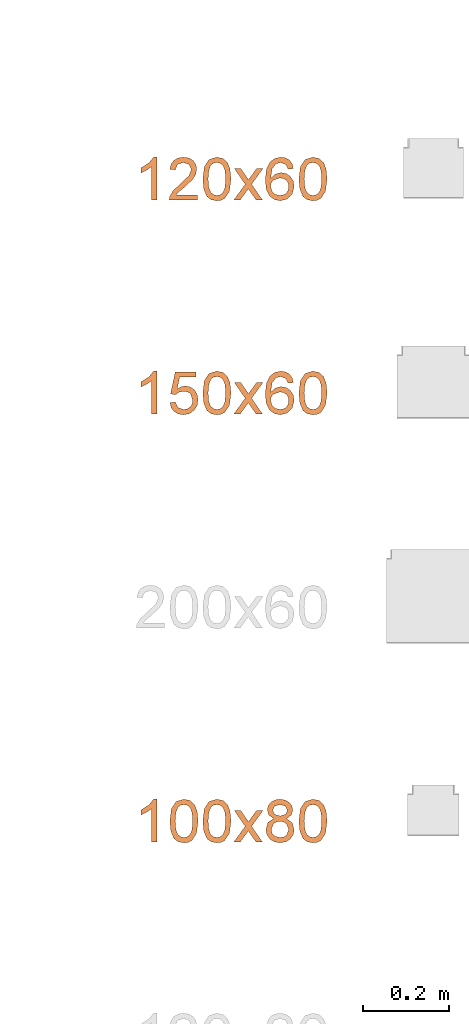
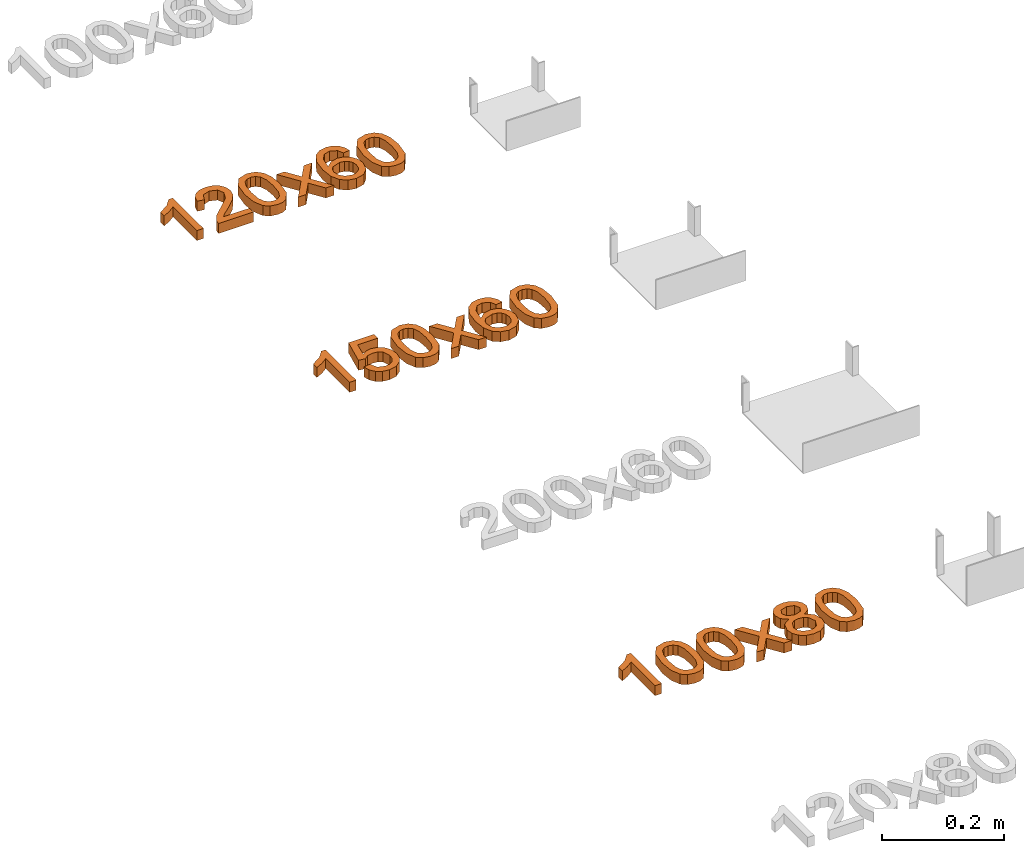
# One storey, part 55 of 71: 3 proxies.
"""IFC2X3 building model written with IfcOpenShell, lengths in millimetres."""

from ifc_helpers import new_model, entity, si_unit, converted_unit, derived_unit, direction, frame, origin, place, context, subcontext, project, spatial, polyline, outline, extrude, element, save


model = new_model("IFC2X3")

# Units and contexts
model_context = context("Model", 3, precision=0.01, world=origin(), true_north=direction((6.12303176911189e-17, 1.0)))
body_context = subcontext(model_context, "Body", "Model", "MODEL_VIEW")
ifc_project = project(units=[si_unit("LENGTHUNIT", "METRE", prefix="MILLI"), si_unit("AREAUNIT", "SQUARE_METRE"), si_unit("VOLUMEUNIT", "CUBIC_METRE"), converted_unit("PLANEANGLEUNIT", "DEGREE", entity("IfcRatioMeasure", 0.0174532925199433), si_unit("PLANEANGLEUNIT", "RADIAN"), dimensions=[0, 0, 0, 0, 0, 0, 0]), si_unit("MASSUNIT", "GRAM", prefix="KILO"), derived_unit("MASSDENSITYUNIT", [(si_unit("MASSUNIT", "GRAM", prefix="KILO"), 1), (si_unit("LENGTHUNIT", "METRE"), -3)]), si_unit("TIMEUNIT", "SECOND"), si_unit("FREQUENCYUNIT", "HERTZ"), si_unit("THERMODYNAMICTEMPERATUREUNIT", "DEGREE_CELSIUS"), derived_unit("THERMALTRANSMITTANCEUNIT", [(si_unit("MASSUNIT", "GRAM", prefix="KILO"), 1), (si_unit("THERMODYNAMICTEMPERATUREUNIT", "KELVIN"), -1), (si_unit("TIMEUNIT", "SECOND"), -3)]), derived_unit("VOLUMETRICFLOWRATEUNIT", [(si_unit("LENGTHUNIT", "METRE"), 3), (si_unit("TIMEUNIT", "SECOND"), -1)]), si_unit("ELECTRICCURRENTUNIT", "AMPERE"), si_unit("ELECTRICVOLTAGEUNIT", "VOLT"), si_unit("POWERUNIT", "WATT"), si_unit("FORCEUNIT", "NEWTON", prefix="KILO"), si_unit("ILLUMINANCEUNIT", "LUX"), si_unit("LUMINOUSFLUXUNIT", "LUMEN"), si_unit("LUMINOUSINTENSITYUNIT", "CANDELA"), derived_unit("USERDEFINED", [(si_unit("MASSUNIT", "GRAM", prefix="KILO"), -1), (si_unit("LENGTHUNIT", "METRE"), -2), (si_unit("TIMEUNIT", "SECOND"), 3), (si_unit("LUMINOUSFLUXUNIT", "LUMEN"), 1)]), derived_unit("LINEARVELOCITYUNIT", [(si_unit("LENGTHUNIT", "METRE"), 1), (si_unit("TIMEUNIT", "SECOND"), -1)]), si_unit("PRESSUREUNIT", "PASCAL"), derived_unit("USERDEFINED", [(si_unit("LENGTHUNIT", "METRE"), -2), (si_unit("MASSUNIT", "GRAM", prefix="KILO"), 1), (si_unit("TIMEUNIT", "SECOND"), -2)])], contexts=[model_context])

# Site, building, storey
site_placement = place(None, origin())
site = spatial("IfcSite", under=ifc_project, at=site_placement, Name="Default", CompositionType="ELEMENT")
building_placement = place(site_placement, origin())
building = spatial("IfcBuilding", under=site, at=building_placement, Name="Наименование здания", CompositionType="ELEMENT")
storey_placement = place(building_placement, origin())
storey = spatial("IfcBuildingStorey", under=building, at=storey_placement, Name="Этаж 01", CompositionType="ELEMENT", Elevation=0.0)

# Proxies
proxy_1_placement = place(storey_placement, origin())
element("IfcBuildingElementProxy", 1, at=proxy_1_placement, inside=storey, Name="Текст модели:100 мм Arial", ObjectType="Текст модели:100 мм Arial", context=body_context, shape_type="SweptSolid", body=[
    extrude(outline(polyline([(-63.8793021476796, -16.918484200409), (36.5770080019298, -16.918484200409), (36.5770080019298, -8.82508030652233), (23.2106288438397, 2.34626961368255), (11.4629304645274, 20.7526321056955), (-0.407395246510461, 20.7526321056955), (5.93243780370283, 7.53340574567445), (14.4059864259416, -4.36144543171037), (-63.8793021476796, -4.36144543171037), (-63.8793021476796, -16.918484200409)])), frame((21210.6140165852, -1399.45595365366, 0.0), z_axis=(0.0, 0.0, 1.0), x_axis=(0.0, 1.0, 0.0)), (0.0, 0.0, 1.0), 20.0),
    extrude(outline(polyline([(-32.3858783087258, -45.1669477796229), (-32.3858783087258, -57.7239865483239), (33.5385752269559, -57.7239865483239), (32.1896745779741, -49.0664969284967), (24.5622545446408, -35.7369059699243), (8.84143061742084, -21.1810416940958), (-12.8390816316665, -0.260818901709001), (-18.2592096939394, 13.9639515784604), (-13.1456499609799, 25.4786580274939), (0.208466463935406, 30.1752848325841), (14.1266686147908, 25.5890226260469), (19.4119066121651, 12.90935652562), (31.968945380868, 14.4789863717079), (28.9247218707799, 26.6252235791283), (22.3426998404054, 35.4973110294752), (12.5662358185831, 40.9235704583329), (-0.0613136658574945, 42.7323236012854), (-12.7808336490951, 40.7212353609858), (-22.5389035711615, 34.6879706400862), (-28.746912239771, 25.6748617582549), (-30.816248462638, 14.724241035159), (-28.584431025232, 2.81712712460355), (-21.1654774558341, -9.49465698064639), (-3.17604789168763, -26.6992716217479), (11.2694517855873, -38.7780637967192), (16.9348345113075, -45.1669477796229), (-32.3858783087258, -45.1669477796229)])), frame((21289.3244132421, -1405.61126925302, 0.0), z_axis=(0.0, 0.0, -1.0), x_axis=(-1.0, 0.0, 0.0)), (0.0, 0.0, -1.0), 20.0),
    extrude(outline(polyline([(-7.02884310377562, -33.3490673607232), (17.5323805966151, -33.3490673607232), (35.1984171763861, -27.6137612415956), (43.3439841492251, -18.4876517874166), (47.0516941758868, -5.75150665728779), (46.7162020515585, 4.48638208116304), (43.446577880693, 13.0955287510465), (27.9444305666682, 25.6659118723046), (-0.314338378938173, 32.2325535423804), (-24.0296505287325, 32.367828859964), (-39.4143020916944, 28.0260881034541), (-49.7293680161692, 18.9002174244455), (-54.4436715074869, 4.63998875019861), (-50.8676582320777, -14.130105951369), (-35.4058547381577, -26.7333390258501), (-7.02884310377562, -33.3490673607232)]), holes=[polyline([(-5.77428774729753, -20.8548320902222), (-25.015764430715, -17.3562860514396), (-36.7257089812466, -11.5717922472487), (-41.0962588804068, -4.77599682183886), (-41.9669219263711, 3.21464792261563), (-39.2244253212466, 11.279129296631), (-32.8654063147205, 17.2229259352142), (-20.9698370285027, 20.2947501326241), (-1.61768958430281, 19.7433141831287), (17.851414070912, 16.270770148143), (28.7803640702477, 10.7141596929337), (33.5546988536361, 3.61815959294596), (34.5599568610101, -4.4725533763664), (31.9421230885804, -12.1923199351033), (25.8471825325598, -18.1754808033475), (14.0250679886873, -21.4027476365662), (-5.77428774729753, -20.8548320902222)])]), frame((21368.158867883, -1417.51207886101, 0.0), z_axis=(0.0, 0.0, 1.0), x_axis=(0.101851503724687, -0.994799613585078, 0.0)), (0.0, 0.0, 1.0), 20.0),
    extrude(outline(polyline([(-34.5302215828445, -38.4265006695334), (-19.4225343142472, -38.4265006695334), (-0.341721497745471, -12.0616243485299), (2.47870713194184, -16.1328517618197), (17.8561745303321, -38.4265006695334), (32.9638617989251, -38.4265006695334), (7.40832586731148, -1.34399555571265), (33.9448804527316, 35.3461020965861), (18.8371931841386, 35.3461020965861), (4.95577923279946, 16.1671874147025), (0.0261604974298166, 9.34910777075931), (-5.66374769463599, 17.6877663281), (-17.8529044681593, 35.3461020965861), (-32.9605917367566, 35.3461020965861), (-7.69936140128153, -1.34399555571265), (-34.5302215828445, -38.4265006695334)])), frame((21441.0005248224, -1424.90875513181, 0.0)), (0.0, 0.0, 1.0), 20.0),
    extrude(outline(polyline([(6.79275401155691, -32.5027761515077), (18.3659045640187, -32.5027761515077), (28.1525204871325, -28.8011371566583), (35.6312934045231, -21.7178704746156), (40.280914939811, -11.5729874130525), (41.41307898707, 3.23667074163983), (36.1391243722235, 16.3729018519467), (21.8599739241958, 28.8803269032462), (-1.50836821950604, 38.2054593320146), (-23.6059131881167, 41.7609274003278), (-39.981422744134, 38.596528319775), (-51.1650797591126, 29.9216784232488), (-57.6870671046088, 16.9457940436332), (-57.9805556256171, -0.0494879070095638), (-49.2081886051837, -14.3141019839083), (-33.6167855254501, -22.9350568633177), (-20.6265742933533, -24.2502330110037), (-8.97800352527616, -20.6254922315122), (0.0919027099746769, -13.035096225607), (5.34612034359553, -2.45330669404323), (5.85483161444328, 11.6447254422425), (-0.843339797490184, 24.991063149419), (19.7707676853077, 15.5765036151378), (28.4840991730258, 4.26766164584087), (28.3893512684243, -7.4637453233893), (19.9956250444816, -18.1936336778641), (8.633035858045, -19.9825396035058), (6.79275401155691, -32.5027761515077)]), holes=[polyline([(-18.758671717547, 29.9549594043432), (-11.6328110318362, 26.3613362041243), (-6.9415407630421, 20.203831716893), (-5.85783236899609, 4.1376106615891), (-9.48331864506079, -3.95286412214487), (-15.1077394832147, -9.26901644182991), (-22.3091633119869, -11.5969098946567), (-30.6656585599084, -10.7226080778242), (-38.6094491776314, -7.06141592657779), (-43.8637090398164, -1.22509865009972), (-46.183528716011, 6.17768396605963), (-45.3239987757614, 14.538272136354), (-39.6901171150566, 24.722197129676), (-30.0168134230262, 30.0585493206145), (-18.758671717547, 29.9549594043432)])]), frame((21516.6584546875, -1404.78751753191, 0.0), z_axis=(0.0, 0.0, 1.0), x_axis=(-0.267015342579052, 0.963692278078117, 0.0)), (0.0, 0.0, 1.0), 20.0),
    extrude(outline(polyline([(-7.02884310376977, -33.3490673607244), (17.5323805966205, -33.3490673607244), (35.198417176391, -27.6137612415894), (43.3439841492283, -18.487651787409), (47.0516941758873, -5.7515066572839), (46.7162020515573, 4.48638208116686), (43.4465778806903, 13.0955287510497), (27.9444305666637, 25.6659118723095), (-0.314338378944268, 32.232553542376), (-24.0296505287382, 32.3678288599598), (-39.4143020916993, 28.0260881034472), (-49.7293680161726, 18.9002174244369), (-54.4436715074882, 4.63998875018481), (-50.8676582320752, -14.1301059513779), (-35.4058547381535, -26.7333390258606), (-7.02884310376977, -33.3490673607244)]), holes=[polyline([(-5.77428774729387, -20.8548320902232), (-25.0157644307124, -17.3562860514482), (-36.7257089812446, -11.5717922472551), (-41.0962588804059, -4.77599682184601), (-41.9669219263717, 3.21464792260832), (-39.224425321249, 11.2791292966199), (-32.865406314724, 17.2229259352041), (-20.9698370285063, 20.2947501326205), (-1.61768958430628, 19.7433141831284), (17.8514140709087, 16.2707701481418), (28.7803640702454, 10.7141596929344), (33.5546988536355, 3.61815959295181), (34.5599568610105, -4.47255337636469), (31.9421230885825, -12.1923199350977), (25.847182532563, -18.175480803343), (14.0250679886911, -21.4027476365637), (-5.77428774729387, -20.8548320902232)])]), frame((21592.6159358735, -1417.51207886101, 0.0), z_axis=(0.0, 0.0, 1.0), x_axis=(0.101851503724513, -0.994799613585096, 0.0)), (0.0, 0.0, 1.0), 20.0),
])
proxy_2_placement = place(storey_placement, origin())
element("IfcBuildingElementProxy", 2, at=proxy_2_placement, inside=storey, Name="Текст модели:100 мм Arial", ObjectType="Текст модели:100 мм Arial", context=body_context, shape_type="SweptSolid", body=[
    extrude(outline(polyline([(-63.8793021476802, -16.918484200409), (36.5770080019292, -16.918484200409), (36.5770080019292, -8.82508030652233), (23.2106288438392, 2.34626961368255), (11.4629304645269, 20.7526321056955), (-0.407395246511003, 20.7526321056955), (5.93243780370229, 7.53340574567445), (14.4059864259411, -4.36144543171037), (-63.8793021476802, -4.36144543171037), (-63.8793021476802, -16.918484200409)])), frame((21210.6140165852, -1899.45595365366, 0.0), z_axis=(0.0, 0.0, 1.0), x_axis=(0.0, 1.0, 0.0)), (0.0, 0.0, 1.0), 20.0),
    extrude(outline(polyline([(3.8143956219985, -37.2548959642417), (15.7323946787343, -37.2548959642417), (26.158813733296, -33.0579698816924), (34.2921694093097, -25.0537205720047), (39.330978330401, -13.6317508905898), (40.2219288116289, 1.43409098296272), (34.3991305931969, 14.6815107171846), (25.5350217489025, 23.1481891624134), (13.9054384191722, 28.2770976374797), (0.912111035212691, 29.4702838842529), (-10.7159258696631, 25.7768606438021), (-19.7427074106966, 18.0989984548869), (-24.9322687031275, 7.33886785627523), (-25.5937300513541, -2.2112479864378), (-22.6370240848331, -12.2793380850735), (-47.9924930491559, 0.0204883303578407), (-38.0977082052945, 37.2324069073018), (-50.2330599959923, 40.4592412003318), (-62.737042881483, -6.56524698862), (-15.5021967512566, -30.4943712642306), (-10.7584434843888, -18.76237376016), (-14.4216298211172, -10.4922324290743), (-13.6981616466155, 0.72266773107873), (-9.9873815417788, 9.35727561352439), (-4.32553373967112, 14.6878856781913), (11.4370636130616, 15.9400687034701), (19.7481682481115, 12.2772427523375), (25.4355726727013, 6.40632241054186), (28.0665145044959, -1.27212018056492), (27.2082313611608, -10.3575128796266), (19.6530635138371, -21.9256319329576), (5.52431094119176, -24.7161898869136), (3.8143956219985, -37.2548959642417)])), frame((21292.3790792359, -1923.3917017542, 0.0), z_axis=(0.0, 0.0, 1.0), x_axis=(0.256974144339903, -0.966418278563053, 0.0)), (0.0, 0.0, 1.0), 20.0),
    extrude(outline(polyline([(-7.02884310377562, -33.3490673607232), (17.5323805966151, -33.3490673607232), (35.1984171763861, -27.6137612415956), (43.3439841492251, -18.4876517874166), (47.0516941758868, -5.75150665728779), (46.7162020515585, 4.48638208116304), (43.446577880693, 13.0955287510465), (27.9444305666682, 25.6659118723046), (-0.314338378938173, 32.2325535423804), (-24.0296505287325, 32.367828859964), (-39.4143020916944, 28.0260881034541), (-49.7293680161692, 18.9002174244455), (-54.4436715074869, 4.63998875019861), (-50.8676582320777, -14.130105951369), (-35.4058547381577, -26.7333390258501), (-7.02884310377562, -33.3490673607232)]), holes=[polyline([(-5.77428774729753, -20.8548320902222), (-25.015764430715, -17.3562860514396), (-36.7257089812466, -11.5717922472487), (-41.0962588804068, -4.77599682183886), (-41.9669219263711, 3.21464792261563), (-39.2244253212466, 11.279129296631), (-32.8654063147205, 17.2229259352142), (-20.9698370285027, 20.2947501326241), (-1.61768958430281, 19.7433141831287), (17.851414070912, 16.270770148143), (28.7803640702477, 10.7141596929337), (33.5546988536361, 3.61815959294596), (34.5599568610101, -4.4725533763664), (31.9421230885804, -12.1923199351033), (25.8471825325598, -18.1754808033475), (14.0250679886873, -21.4027476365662), (-5.77428774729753, -20.8548320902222)])]), frame((21368.158867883, -1917.512078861, 0.0), z_axis=(0.0, 0.0, 1.0), x_axis=(0.101851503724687, -0.994799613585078, 0.0)), (0.0, 0.0, 1.0), 20.0),
    extrude(outline(polyline([(-34.5302215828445, -38.4265006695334), (-19.4225343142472, -38.4265006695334), (-0.341721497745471, -12.0616243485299), (2.47870713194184, -16.1328517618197), (17.8561745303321, -38.4265006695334), (32.9638617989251, -38.4265006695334), (7.40832586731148, -1.34399555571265), (33.9448804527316, 35.3461020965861), (18.8371931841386, 35.3461020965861), (4.95577923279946, 16.1671874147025), (0.0261604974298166, 9.34910777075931), (-5.66374769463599, 17.6877663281), (-17.8529044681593, 35.3461020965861), (-32.9605917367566, 35.3461020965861), (-7.69936140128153, -1.34399555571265), (-34.5302215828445, -38.4265006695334)])), frame((21441.0005248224, -1924.90875513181, 0.0)), (0.0, 0.0, 1.0), 20.0),
    extrude(outline(polyline([(6.79275401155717, -32.5027761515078), (18.365904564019, -32.5027761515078), (28.1525204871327, -28.8011371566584), (35.6312934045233, -21.7178704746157), (40.2809149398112, -11.5729874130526), (41.4130789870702, 3.23667074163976), (36.1391243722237, 16.3729018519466), (21.859973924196, 28.8803269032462), (-1.50836821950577, 38.2054593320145), (-23.6059131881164, 41.7609274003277), (-39.9814227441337, 38.5965283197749), (-51.1650797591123, 29.9216784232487), (-57.6870671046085, 16.9457940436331), (-57.9805556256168, -0.0494879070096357), (-49.2081886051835, -14.3141019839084), (-33.6167855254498, -22.9350568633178), (-20.6265742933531, -24.2502330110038), (-8.9780035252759, -20.6254922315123), (0.0919027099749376, -13.035096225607), (5.34612034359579, -2.4533066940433), (5.85483161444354, 11.6447254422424), (-0.843339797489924, 24.9910631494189), (19.770767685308, 15.5765036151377), (28.484099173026, 4.2676616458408), (28.3893512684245, -7.46374532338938), (19.9956250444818, -18.1936336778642), (8.63303585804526, -19.9825396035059), (6.79275401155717, -32.5027761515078)]), holes=[polyline([(-18.7586717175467, 29.9549594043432), (-11.6328110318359, 26.3613362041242), (-6.94154076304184, 20.2038317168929), (-5.85783236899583, 4.13761066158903), (-9.48331864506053, -3.95286412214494), (-15.1077394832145, -9.26901644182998), (-22.3091633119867, -11.5969098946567), (-30.6656585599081, -10.7226080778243), (-38.6094491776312, -7.06141592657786), (-43.8637090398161, -1.22509865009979), (-46.1835287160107, 6.17768396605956), (-45.3239987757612, 14.5382721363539), (-39.6901171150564, 24.7221971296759), (-30.0168134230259, 30.0585493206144), (-18.7586717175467, 29.9549594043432)])]), frame((21516.6584546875, -1904.78751753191, 0.0), z_axis=(0.0, 0.0, 1.0), x_axis=(-0.267015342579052, 0.963692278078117, 0.0)), (0.0, 0.0, 1.0), 20.0),
    extrude(outline(polyline([(-7.02884310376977, -33.3490673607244), (17.5323805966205, -33.3490673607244), (35.198417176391, -27.6137612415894), (43.3439841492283, -18.487651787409), (47.0516941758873, -5.7515066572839), (46.7162020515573, 4.48638208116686), (43.4465778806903, 13.0955287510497), (27.9444305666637, 25.6659118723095), (-0.314338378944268, 32.232553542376), (-24.0296505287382, 32.3678288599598), (-39.4143020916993, 28.0260881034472), (-49.7293680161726, 18.9002174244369), (-54.4436715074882, 4.63998875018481), (-50.8676582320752, -14.1301059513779), (-35.4058547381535, -26.7333390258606), (-7.02884310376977, -33.3490673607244)]), holes=[polyline([(-5.77428774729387, -20.8548320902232), (-25.0157644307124, -17.3562860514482), (-36.7257089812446, -11.5717922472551), (-41.0962588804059, -4.77599682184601), (-41.9669219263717, 3.21464792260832), (-39.224425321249, 11.2791292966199), (-32.865406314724, 17.2229259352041), (-20.9698370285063, 20.2947501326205), (-1.61768958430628, 19.7433141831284), (17.8514140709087, 16.2707701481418), (28.7803640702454, 10.7141596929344), (33.5546988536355, 3.61815959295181), (34.5599568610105, -4.47255337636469), (31.9421230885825, -12.1923199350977), (25.847182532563, -18.175480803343), (14.0250679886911, -21.4027476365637), (-5.77428774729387, -20.8548320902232)])]), frame((21592.6159358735, -1917.512078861, 0.0), z_axis=(0.0, 0.0, 1.0), x_axis=(0.101851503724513, -0.994799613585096, 0.0)), (0.0, 0.0, 1.0), 20.0),
])
proxy_3_placement = place(storey_placement, origin())
element("IfcBuildingElementProxy", 3, at=proxy_3_placement, inside=storey, Name="Текст модели:100 мм Arial", ObjectType="Текст модели:100 мм Arial", context=body_context, shape_type="SweptSolid", body=[
    extrude(outline(polyline([(-63.8793021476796, -16.918484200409), (36.5770080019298, -16.918484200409), (36.5770080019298, -8.82508030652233), (23.2106288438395, 2.34626961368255), (11.4629304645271, 20.7526321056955), (-0.407395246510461, 20.7526321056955), (5.93243780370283, 7.53340574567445), (14.4059864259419, -4.36144543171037), (-63.8793021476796, -4.36144543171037), (-63.8793021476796, -16.918484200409)])), frame((21210.6140165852, -2899.45595365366, 0.0), z_axis=(0.0, 0.0, 1.0), x_axis=(0.0, 1.0, 0.0)), (0.0, 0.0, 1.0), 20.0),
    extrude(outline(polyline([(-7.02884310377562, -33.3490673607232), (17.5323805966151, -33.3490673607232), (35.1984171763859, -27.6137612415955), (43.3439841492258, -18.4876517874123), (47.051694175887, -5.75150665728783), (46.7162020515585, 4.48638208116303), (43.4465778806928, 13.0955287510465), (27.9444305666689, 25.6659118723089), (-0.314338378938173, 32.2325535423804), (-24.0296505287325, 32.367828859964), (-39.4143020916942, 28.0260881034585), (-49.729368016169, 18.9002174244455), (-54.4436715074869, 4.63998875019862), (-50.867658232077, -14.1301059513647), (-35.4058547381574, -26.7333390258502), (-7.02884310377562, -33.3490673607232)]), holes=[polyline([(-5.77428774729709, -20.8548320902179), (-25.0157644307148, -17.3562860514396), (-36.7257089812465, -11.5717922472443), (-41.0962588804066, -4.77599682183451), (-41.9669219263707, 3.21464792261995), (-39.2244253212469, 11.2791292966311), (-32.8654063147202, 17.2229259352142), (-20.969837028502, 20.2947501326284), (-1.61768958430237, 19.743314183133), (17.851414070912, 16.270770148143), (28.7803640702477, 10.7141596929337), (33.5546988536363, 3.61815959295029), (34.5599568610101, -4.47255337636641), (31.9421230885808, -12.192319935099), (25.8471825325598, -18.1754808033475), (14.0250679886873, -21.4027476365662), (-5.77428774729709, -20.8548320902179)])]), frame((21291.2470054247, -2917.512078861, 0.0), z_axis=(0.0, 0.0, 1.0), x_axis=(0.101851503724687, -0.994799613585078, 0.0)), (0.0, 0.0, 1.0), 20.0),
    extrude(outline(polyline([(-7.02884310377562, -33.3490673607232), (17.5323805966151, -33.3490673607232), (35.1984171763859, -27.6137612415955), (43.3439841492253, -18.4876517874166), (47.051694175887, -5.75150665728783), (46.7162020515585, 4.48638208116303), (43.4465778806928, 13.0955287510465), (27.9444305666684, 25.6659118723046), (-0.314338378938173, 32.2325535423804), (-24.0296505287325, 32.367828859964), (-39.4143020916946, 28.0260881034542), (-49.729368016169, 18.9002174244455), (-54.4436715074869, 4.63998875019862), (-50.8676582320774, -14.130105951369), (-35.4058547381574, -26.7333390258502), (-7.02884310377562, -33.3490673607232)]), holes=[polyline([(-5.77428774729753, -20.8548320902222), (-25.0157644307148, -17.3562860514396), (-36.7257089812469, -11.5717922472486), (-41.096258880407, -4.77599682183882), (-41.9669219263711, 3.21464792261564), (-39.2244253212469, 11.2791292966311), (-32.8654063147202, 17.2229259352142), (-20.9698370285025, 20.2947501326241), (-1.61768958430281, 19.7433141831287), (17.851414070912, 16.270770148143), (28.7803640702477, 10.7141596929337), (33.5546988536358, 3.61815959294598), (34.5599568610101, -4.47255337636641), (31.9421230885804, -12.1923199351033), (25.8471825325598, -18.1754808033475), (14.0250679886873, -21.4027476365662), (-5.77428774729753, -20.8548320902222)])]), frame((21368.158867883, -2917.512078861, 0.0), z_axis=(0.0, 0.0, 1.0), x_axis=(0.101851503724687, -0.994799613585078, 0.0)), (0.0, 0.0, 1.0), 20.0),
    extrude(outline(polyline([(-34.5302215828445, -38.4265006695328), (-19.4225343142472, -38.4265006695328), (-0.341721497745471, -12.0616243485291), (2.47870713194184, -16.1328517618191), (17.8561745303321, -38.4265006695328), (32.9638617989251, -38.4265006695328), (7.40832586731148, -1.34399555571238), (33.9448804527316, 35.3461020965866), (18.8371931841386, 35.3461020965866), (4.95577923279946, 16.1671874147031), (0.0261604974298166, 9.34910777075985), (-5.66374769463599, 17.6877663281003), (-17.8529044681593, 35.3461020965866), (-32.9605917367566, 35.3461020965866), (-7.69936140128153, -1.34399555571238), (-34.5302215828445, -38.4265006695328)])), frame((21441.0005248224, -2924.90875513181, 0.0)), (0.0, 0.0, 1.0), 20.0),
    extrude(outline(polyline([(10.1224324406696, -11.2212127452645), (26.447773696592, -11.2212127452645), (39.686138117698, -0.0909413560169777), (44.6322314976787, 11.3078156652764), (44.5856416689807, 23.4168603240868), (39.6073830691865, 34.834629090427), (29.7584701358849, 44.1595584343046), (17.4236057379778, 49.7956565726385), (4.9874927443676, 50.1469317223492), (-6.20047708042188, 45.7236060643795), (-14.7909119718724, 37.0359017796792), (-20.0781666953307, 21.0056847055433), (-14.5070621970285, 5.37692494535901), (-28.0684052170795, 5.15563707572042), (-37.722171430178, -2.60845010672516), (-41.5236361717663, -11.9357006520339), (-41.0036870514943, -22.2232653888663), (-36.1916154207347, -32.1870777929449), (-27.1167126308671, -40.5430713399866), (-16.050329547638, -45.8123091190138), (-5.18246445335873, -46.5706787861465), (4.38453303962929, -43.2361071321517), (11.5483133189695, -36.2265209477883), (15.2516244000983, -24.0826582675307), (10.1224324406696, -11.2212127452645)]), holes=[polyline([(29.0262968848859, 6.56051660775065), (17.1806533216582, -1.51571690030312), (9.68494123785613, -1.27757268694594), (1.95268767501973, 2.32885586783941), (-4.46267094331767, 8.27886886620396), (-7.64161156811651, 15.3010558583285), (-4.59707955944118, 29.6929468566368), (7.31333657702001, 37.7994665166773), (14.8367372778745, 37.4872096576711), (22.6595729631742, 33.8012523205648), (30.3730358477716, 25.5864099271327), (32.5711030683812, 15.5727469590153), (29.0262968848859, 6.56051660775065)]), polyline([(1.3407747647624, -28.9039041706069), (-7.53771017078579, -33.9815875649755), (-20.2415350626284, -30.0339976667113), (-28.5905650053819, -19.6902819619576), (-26.9800933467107, -9.13787919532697), (-18.1108932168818, -3.87648928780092), (-5.45128168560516, -7.82385811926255), (3.15927028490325, -18.2403048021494), (1.3407747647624, -28.9039041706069)])]), frame((21514.7737407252, -2911.65422231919, 0.0), z_axis=(0.0, 0.0, 1.0), x_axis=(-0.829266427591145, -0.558853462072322, 0.0)), (0.0, 0.0, 1.0), 20.0),
    extrude(outline(polyline([(-7.02884310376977, -33.3490673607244), (17.5323805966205, -33.3490673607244), (35.1984171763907, -27.6137612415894), (43.3439841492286, -18.4876517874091), (47.0516941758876, -5.75150665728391), (46.7162020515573, 4.48638208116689), (43.44657788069, 13.0955287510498), (27.9444305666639, 25.6659118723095), (-0.314338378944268, 32.232553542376), (-24.0296505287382, 32.3678288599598), (-39.4143020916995, 28.0260881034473), (-49.7293680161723, 18.9002174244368), (-54.4436715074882, 4.63998875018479), (-50.8676582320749, -14.1301059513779), (-35.4058547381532, -26.7333390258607), (-7.02884310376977, -33.3490673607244)]), holes=[polyline([(-5.77428774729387, -20.8548320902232), (-25.0157644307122, -17.3562860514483), (-36.7257089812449, -11.5717922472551), (-41.0962588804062, -4.77599682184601), (-41.9669219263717, 3.2146479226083), (-39.2244253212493, 11.2791292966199), (-32.8654063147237, 17.2229259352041), (-20.969837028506, 20.2947501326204), (-1.61768958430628, 19.7433141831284), (17.8514140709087, 16.2707701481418), (28.7803640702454, 10.7141596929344), (33.5546988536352, 3.61815959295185), (34.5599568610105, -4.47255337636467), (31.9421230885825, -12.1923199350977), (25.847182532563, -18.175480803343), (14.0250679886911, -21.4027476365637), (-5.77428774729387, -20.8548320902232)])]), frame((21592.6159358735, -2917.512078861, 0.0), z_axis=(0.0, 0.0, 1.0), x_axis=(0.101851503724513, -0.994799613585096, 0.0)), (0.0, 0.0, 1.0), 20.0),
])

save(model, "model.ifc")
